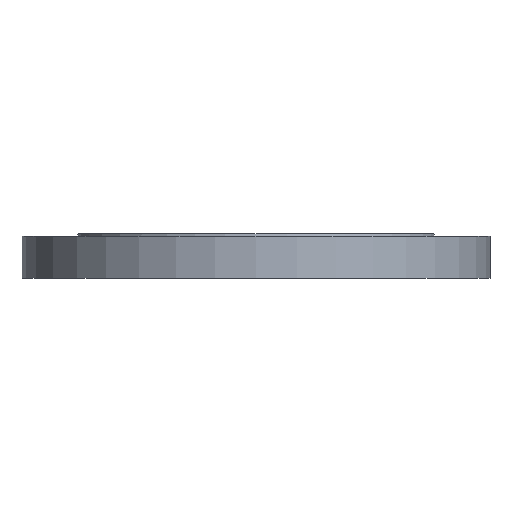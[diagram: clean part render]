
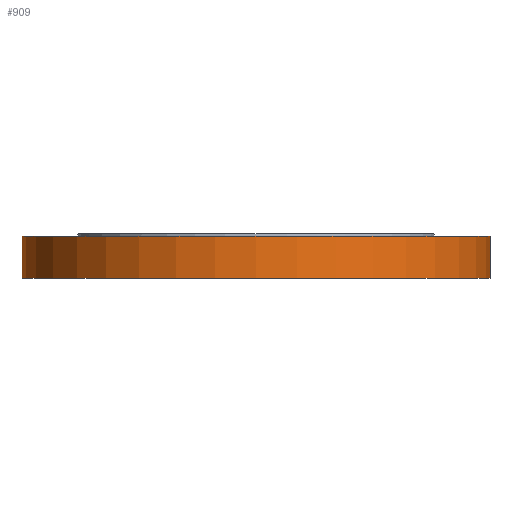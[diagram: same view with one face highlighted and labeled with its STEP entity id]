
A CAD part, front view. The second image highlights one B-rep face of the part: STEP entity #909.
In plain terms, the highlighted cylindrical face has radius 187.5 mm (diameter 375 mm), a partial arc.
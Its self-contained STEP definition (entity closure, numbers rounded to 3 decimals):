
#23 = CARTESIAN_POINT ( 'NONE',  ( 187.5, 0., -2. ) ) ;
#38 = DIRECTION ( 'NONE',  ( 0., 0., -1. ) ) ;
#44 = VERTEX_POINT ( 'NONE', #952 ) ;
#84 = AXIS2_PLACEMENT_3D ( 'NONE', #364, #778, #1179 ) ;
#112 = CARTESIAN_POINT ( 'NONE',  ( 0., 0., -2. ) ) ;
#118 = ORIENTED_EDGE ( 'NONE', *, *, #798, .T. ) ;
#120 = VECTOR ( 'NONE', #268, 1000. ) ;
#130 = DIRECTION ( 'NONE',  ( 0., 0., 1. ) ) ;
#134 = EDGE_CURVE ( 'NONE', #44, #969, #787, .T. ) ;
#204 = CARTESIAN_POINT ( 'NONE',  ( 187.5, 0., -36. ) ) ;
#207 = AXIS2_PLACEMENT_3D ( 'NONE', #984, #38, #477 ) ;
#233 = ORIENTED_EDGE ( 'NONE', *, *, #1257, .T. ) ;
#239 = ORIENTED_EDGE ( 'NONE', *, *, #991, .F. ) ;
#268 = DIRECTION ( 'NONE',  ( 0., 0., 1. ) ) ;
#364 = CARTESIAN_POINT ( 'NONE',  ( 0., 0., -98. ) ) ;
#477 = DIRECTION ( 'NONE',  ( -1., 0., 0. ) ) ;
#533 = CIRCLE ( 'NONE', #1272, 187.5 ) ;
#538 = DIRECTION ( 'NONE',  ( 0., 0., -1. ) ) ;
#664 = LINE ( 'NONE', #1067, #938 ) ;
#701 = VERTEX_POINT ( 'NONE', #204 ) ;
#778 = DIRECTION ( 'NONE',  ( 0., 0., 1. ) ) ;
#787 = LINE ( 'NONE', #1189, #120 ) ;
#796 = CIRCLE ( 'NONE', #207, 187.5 ) ;
#798 = EDGE_CURVE ( 'NONE', #898, #969, #533, .T. ) ;
#877 = FACE_OUTER_BOUND ( 'NONE', #1033, .T. ) ;
#898 = VERTEX_POINT ( 'NONE', #23 ) ;
#909 = ADVANCED_FACE ( 'NONE', ( #877 ), #1273, .T. ) ;
#938 = VECTOR ( 'NONE', #130, 1000. ) ;
#950 = DIRECTION ( 'NONE',  ( -1., 0., 0. ) ) ;
#952 = CARTESIAN_POINT ( 'NONE',  ( -187.5, 0., -36. ) ) ;
#969 = VERTEX_POINT ( 'NONE', #1186 ) ;
#984 = CARTESIAN_POINT ( 'NONE',  ( 0., 0., -36. ) ) ;
#991 = EDGE_CURVE ( 'NONE', #701, #44, #796, .T. ) ;
#1033 = EDGE_LOOP ( 'NONE', ( #1160, #239, #233, #118 ) ) ;
#1067 = CARTESIAN_POINT ( 'NONE',  ( 187.5, 0., -98. ) ) ;
#1160 = ORIENTED_EDGE ( 'NONE', *, *, #134, .F. ) ;
#1179 = DIRECTION ( 'NONE',  ( 1., 0., 0. ) ) ;
#1186 = CARTESIAN_POINT ( 'NONE',  ( -187.5, 0., -2. ) ) ;
#1189 = CARTESIAN_POINT ( 'NONE',  ( -187.5, 0., -98. ) ) ;
#1257 = EDGE_CURVE ( 'NONE', #701, #898, #664, .T. ) ;
#1272 = AXIS2_PLACEMENT_3D ( 'NONE', #112, #538, #950 ) ;
#1273 = CYLINDRICAL_SURFACE ( 'NONE', #84, 187.5 ) ;
